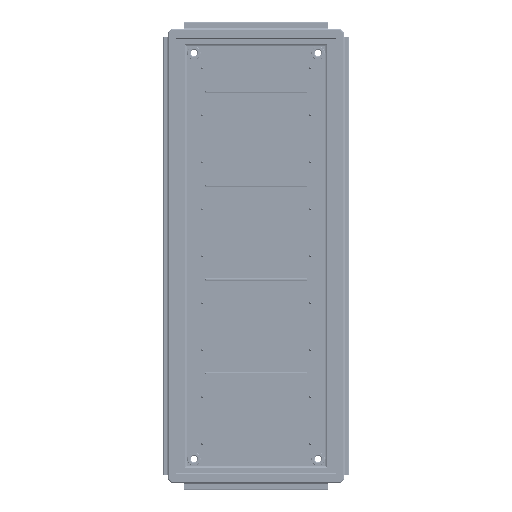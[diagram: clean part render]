
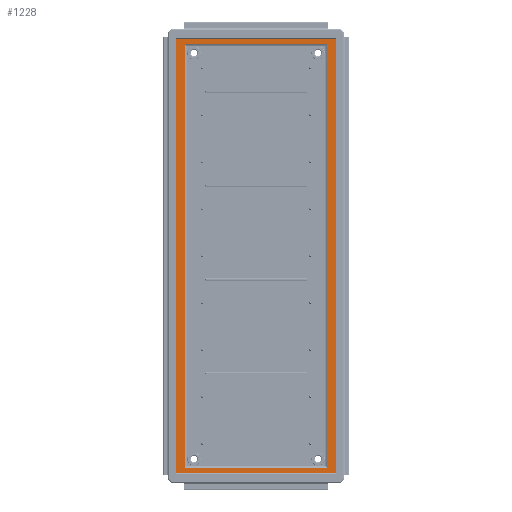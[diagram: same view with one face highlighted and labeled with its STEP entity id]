
A CAD part, front view. The second image highlights one B-rep face of the part: STEP entity #1228.
In plain terms, the highlighted planar face has unit normal (0, -1, 0).
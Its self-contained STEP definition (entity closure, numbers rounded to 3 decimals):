
#1228=ADVANCED_FACE('',(#36557,#36559),#36561,.T.);
#36557=FACE_BOUND('',#36558,.T.);
#36558=EDGE_LOOP('',(#111145,#111146,#111147,#111148));
#36559=FACE_BOUND('',#36560,.T.);
#36560=EDGE_LOOP('',(#111149,#111150,#111151,#111152));
#36561=PLANE('',#36562);
#36562=AXIS2_PLACEMENT_3D('',#36563,#36564,#36565);
#36563=CARTESIAN_POINT('',(-359.9,1.,-20.899));
#36564=DIRECTION('',(0.,-1.,0.));
#36565=DIRECTION('',(0.,0.,-1.));
#111145=ORIENTED_EDGE('',*,*,#154751,.F.);
#111146=ORIENTED_EDGE('',*,*,#154752,.T.);
#111147=ORIENTED_EDGE('',*,*,#154753,.T.);
#111148=ORIENTED_EDGE('',*,*,#154754,.F.);
#111149=ORIENTED_EDGE('',*,*,#154755,.T.);
#111150=ORIENTED_EDGE('',*,*,#154756,.T.);
#111151=ORIENTED_EDGE('',*,*,#154757,.F.);
#111152=ORIENTED_EDGE('',*,*,#154758,.T.);
#154751=EDGE_CURVE('',#177616,#177617,#177618,.T.);
#154752=EDGE_CURVE('',#177616,#177619,#177620,.T.);
#154753=EDGE_CURVE('',#177619,#177621,#177622,.T.);
#154754=EDGE_CURVE('',#177617,#177621,#177623,.T.);
#154755=EDGE_CURVE('',#177624,#177625,#177626,.T.);
#154756=EDGE_CURVE('',#177625,#177627,#177628,.T.);
#154757=EDGE_CURVE('',#177629,#177627,#177630,.T.);
#154758=EDGE_CURVE('',#177629,#177624,#177631,.T.);
#177616=VERTEX_POINT('',#217382);
#177617=VERTEX_POINT('',#217383);
#177618=LINE('',#217384,#217385);
#177619=VERTEX_POINT('',#217387);
#177620=LINE('',#217388,#217389);
#177621=VERTEX_POINT('',#217391);
#177622=LINE('',#217392,#217393);
#177623=LINE('',#217395,#217396);
#177624=VERTEX_POINT('',#217398);
#177625=VERTEX_POINT('',#217399);
#177626=LINE('',#217400,#217401);
#177627=VERTEX_POINT('',#217403);
#177628=LINE('',#217404,#217405);
#177629=VERTEX_POINT('',#217407);
#177630=LINE('',#217408,#217409);
#177631=LINE('',#217411,#217412);
#217382=CARTESIAN_POINT('',(-382.591,1.,-20.899));
#217383=CARTESIAN_POINT('',(-42.409,1.,-20.899));
#217384=CARTESIAN_POINT('',(-382.591,1.,-20.899));
#217385=VECTOR('',#217386,1.);
#217386=DIRECTION('',(1.,0.,0.));
#217387=CARTESIAN_POINT('',(-382.591,1.,-947.101));
#217388=CARTESIAN_POINT('',(-382.591,1.,-20.899));
#217389=VECTOR('',#217390,1.);
#217390=DIRECTION('',(0.,0.,-1.));
#217391=CARTESIAN_POINT('',(-42.409,1.,-947.101));
#217392=CARTESIAN_POINT('',(-382.591,1.,-947.101));
#217393=VECTOR('',#217394,1.);
#217394=DIRECTION('',(1.,0.,0.));
#217395=CARTESIAN_POINT('',(-42.409,1.,-20.899));
#217396=VECTOR('',#217397,1.);
#217397=DIRECTION('',(0.,0.,-1.));
#217398=CARTESIAN_POINT('',(-364.6,1.,-31.9));
#217399=CARTESIAN_POINT('',(-60.4,1.,-31.9));
#217400=CARTESIAN_POINT('',(-364.6,1.,-31.9));
#217401=VECTOR('',#217402,1.);
#217402=DIRECTION('',(1.,0.,0.));
#217403=CARTESIAN_POINT('',(-60.4,1.,-936.1));
#217404=CARTESIAN_POINT('',(-60.4,1.,-31.9));
#217405=VECTOR('',#217406,1.);
#217406=DIRECTION('',(0.,0.,-1.));
#217407=CARTESIAN_POINT('',(-364.6,1.,-936.1));
#217408=CARTESIAN_POINT('',(-364.6,1.,-936.1));
#217409=VECTOR('',#217410,1.);
#217410=DIRECTION('',(1.,0.,0.));
#217411=CARTESIAN_POINT('',(-364.6,1.,-936.1));
#217412=VECTOR('',#217413,1.);
#217413=DIRECTION('',(0.,0.,1.));
